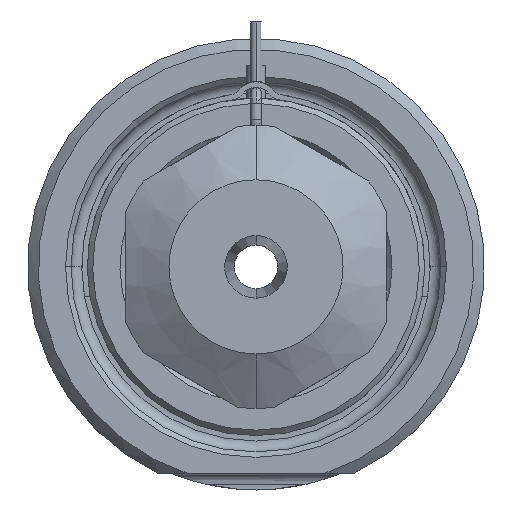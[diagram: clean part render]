
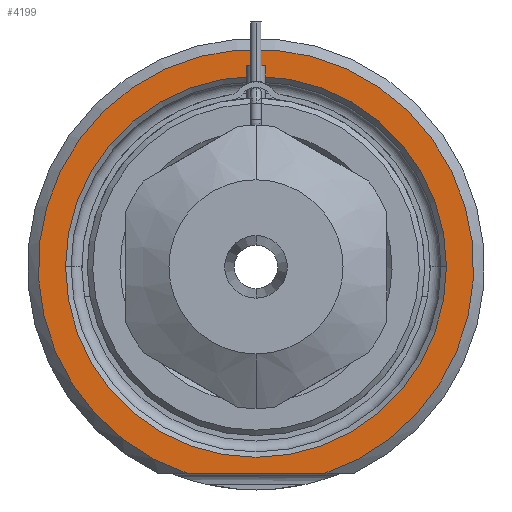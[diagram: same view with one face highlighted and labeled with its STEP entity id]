
A CAD part, front view. The second image highlights one B-rep face of the part: STEP entity #4199.
In plain terms, the highlighted planar face has unit normal (0, -1, 0).
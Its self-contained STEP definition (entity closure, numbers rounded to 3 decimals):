
#642=CARTESIAN_POINT('',(0.,0.,0.));
#643=DIRECTION('',(0.,-1.,0.));
#644=DIRECTION('',(0.312,0.,-0.95));
#645=AXIS2_PLACEMENT_3D('',#642,#643,#644);
#666=DIRECTION('',(1.,0.,0.));
#667=VECTOR('',#666,12.49);
#668=CARTESIAN_POINT('',(-6.245,0.,-19.));
#669=LINE('',#668,#667);
#670=CARTESIAN_POINT('',(0.,0.,0.));
#671=DIRECTION('',(0.,1.,0.));
#672=DIRECTION('',(-1.,0.,0.));
#673=AXIS2_PLACEMENT_3D('',#670,#671,#672);
#675=CARTESIAN_POINT('',(0.,0.,0.));
#676=DIRECTION('',(0.,1.,0.));
#677=DIRECTION('',(1.,0.,0.));
#678=AXIS2_PLACEMENT_3D('',#675,#676,#677);
#2788=CARTESIAN_POINT('',(-17.5,0.,0.));
#2789=CARTESIAN_POINT('',(17.5,0.,0.));
#2790=VERTEX_POINT('',#2788);
#2791=VERTEX_POINT('',#2789);
#2846=CARTESIAN_POINT('',(-6.245,0.,-19.));
#2847=CARTESIAN_POINT('',(6.245,0.,-19.));
#2848=VERTEX_POINT('',#2846);
#2849=VERTEX_POINT('',#2847);
#4184=CARTESIAN_POINT('',(0.,0.,0.));
#4185=DIRECTION('',(0.,-1.,0.));
#4186=DIRECTION('',(1.,0.,0.));
#4187=AXIS2_PLACEMENT_3D('',#4184,#4185,#4186);
#4188=PLANE('',#4187);
#4189=ORIENTED_EDGE('',*,*,#4116,.F.);
#4190=ORIENTED_EDGE('',*,*,#4176,.F.);
#4191=EDGE_LOOP('',(#4189,#4190));
#4192=FACE_OUTER_BOUND('',#4191,.F.);
#4194=ORIENTED_EDGE('',*,*,#4193,.F.);
#4196=ORIENTED_EDGE('',*,*,#4195,.F.);
#4197=EDGE_LOOP('',(#4194,#4196));
#4198=FACE_BOUND('',#4197,.F.);
#4199=ADVANCED_FACE('',(#4192,#4198),#4188,.T.);
#646=CIRCLE('',#645,20.);
#674=CIRCLE('',#673,17.5);
#679=CIRCLE('',#678,17.5);
#4116=EDGE_CURVE('',#2848,#2849,#669,.T.);
#4176=EDGE_CURVE('',#2849,#2848,#646,.T.);
#4193=EDGE_CURVE('',#2790,#2791,#674,.T.);
#4195=EDGE_CURVE('',#2791,#2790,#679,.T.);
